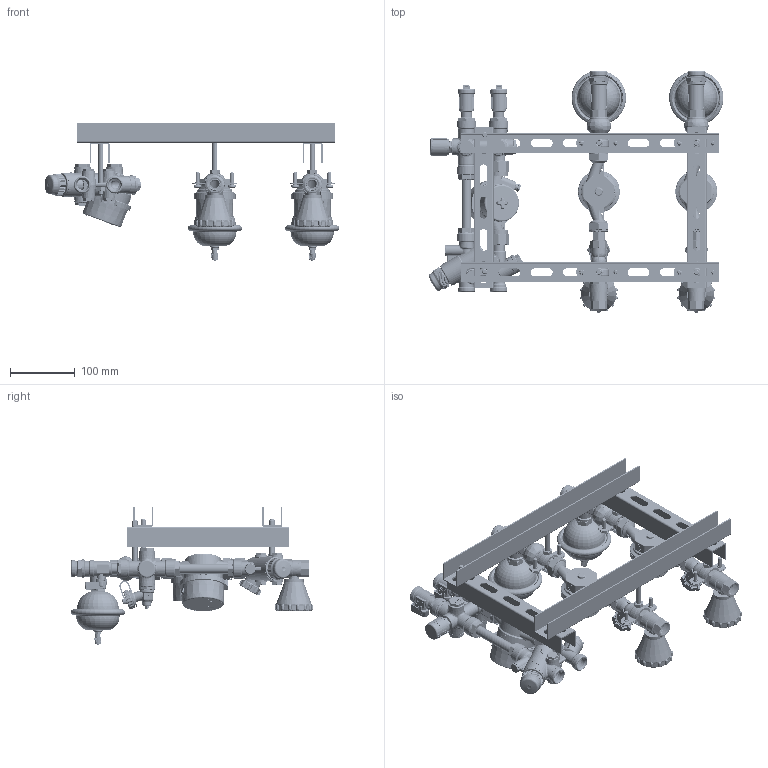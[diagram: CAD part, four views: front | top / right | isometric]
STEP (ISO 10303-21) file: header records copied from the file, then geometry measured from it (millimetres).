
FILE_DESCRIPTION(('STEP AP242'), '1');
FILE_NAME('覆.494726.032.000 捘 - VT.LB.V0.MW', '', ('UNSPECIFIED'), ('UNSPECIFIED'), 'C3D Converter', 'C3D Toolkit', '');
FILE_SCHEMA(('AP242_MANAGED_MODEL_BASED_3D_ENGINEERING_MIM_LF { 1 0 10303 442 1 1 4 }'));
Length unit declared in the file: millimetre
Products named in the file (236): ВР.494726.032.000 СБ; ВР.494726.009.001-01; ВР.407262.001.000 СБ; ВР.407262.001.002 СБ; ВР.407262.001.002.001 СБ; ВР.731464.001; ВР.407262.001.002.001.001 СБ; ВР.711151.002; ВР.713121.001; ВР.407262.001.002.002 СБ; ВР.753192.011; ВР.715113.001; ВР.711141.015; ВР.407262.001.002.003 СБ; ВР.753181.004; ВР.305323.014; ВР.711242.001; ВР.711141.016; ВР.752676.001; ВР.753192.012; ВР.407262.001.001 СБ; ВР.753192.013; ВР.711144.001; ВР.753191.014; ВР.407262.001.001.001 СБ; ВР.753181.005; ВР.711141.017; ВР.753181.006; ВР.713321.001; ВР.711323.001; ВР.715111.002; ВР.753181.007; ВР.753181.008; ВР.722551.001; ВР.753182.012; ВР.711642.001; ВР.711642.001-01; ВР.711642.001-02; ВР.711642.001-03; ВР.711642.001-04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
Assembly tree (292 placements, depth 9):
  ВР.494726.032.000 СБ
    ВР.494726.009.001-01
      ВР.407262.001.000 СБ  x2
        ВР.407262.001.002 СБ
          ВР.407262.001.002.001 СБ
            ВР.731464.001
            ВР.407262.001.002.001.001 СБ
              ВР.711151.002
              ВР.713121.001
          ВР.407262.001.002.002 СБ
            ВР.753192.011
              ВР.715113.001
            ВР.711141.015
          ВР.407262.001.002.003 СБ
            ВР.753181.004
            ВР.407262.001.002.001.001 СБ
              ВР.711151.002
              ВР.713121.001
          ВР.305323.014
          (unnamed)
          ВР.711242.001
          ВР.711141.016
          ВР.752676.001
        ВР.753192.012
        ВР.407262.001.001 СБ
          ВР.753192.013
          ВР.711144.001
          ВР.753191.014
          ВР.407262.001.001.001 СБ
            ВР.753181.005
            ВР.711141.017
          (unnamed)
          ВР.753181.006
          ВР.713321.001
          ВР.711323.001
          ВР.715111.002  x2
          ВР.753181.007
          ВР.753181.008
          ВР.722551.001
          ВР.753182.012  x7
          ВР.711642.001
          ВР.711642.001-01
          ВР.711642.001-02
          ВР.711642.001-03
          ВР.711642.001-04
          ВР.711642.001-05
          ВР.711642.002
          ВР.711642.003
          (unnamed)
          ВР.753191.013
        ВР.302638.003.000 СБ
          ВР.753136.002
          ВР.758422.017
          ВР.305323.012
        ВР.302638.004.000 СБ
          ВР.753137.012
          ВР.758422.017
          ВР.305323.012
          ВР.494149.001.000 СБ
            ВР.753182.013
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Bounding box: 456.8 x 375.62 x 215.03 mm (x, y, z)
Volume: 1300194.4 mm3; surface area: 1156232.7 mm2
Topology: 349 solids, 352 shells, 27482 faces, 74200 edges, 48813 vertices
Faces by surface type: plane 10899, extrusion 7198, cylinder 5724, cone 1639, bspline 1090, torus 841, sphere 91
Full cylindrical faces by diameter (mm): 0.4 x4, 0.6 x23, 0.7 x2, 0.8 x12, 1 x10, 1.1 x308, 1.2 x22, 1.3 x15, 1.5 x53, 1.55 x2, 1.6 x22, 1.66 x4, 1.7 x3, 1.8 x10, 1.9 x5, 2 x35, 2.1 x4, 2.2 x11, 2.3 x2, 2.4 x2, 2.5 x11, 2.6 x1, 2.7 x2, 2.8 x1, 3 x82, 3.2 x2, 3.242 x2, 3.4 x34, 3.5 x10, 3.6 x5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
Entity records: 721826 total; most frequent: CARTESIAN_POINT 340204, ORIENTED_EDGE 79176, DIRECTION 61434, EDGE_CURVE 39593, VERTEX_POINT 26883, VECTOR 22016, AXIS2_PLACEMENT_3D 19709, EDGE_LOOP 18639
